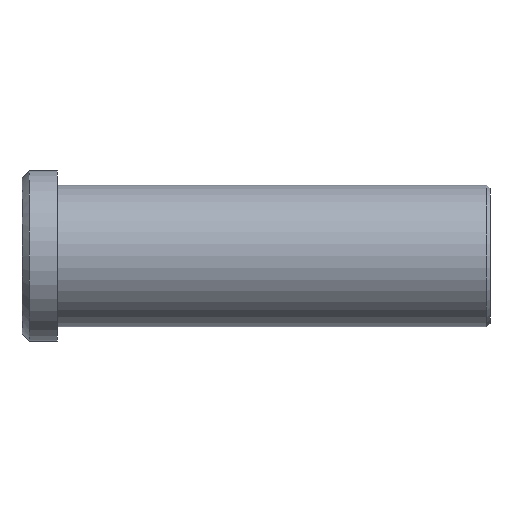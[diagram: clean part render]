
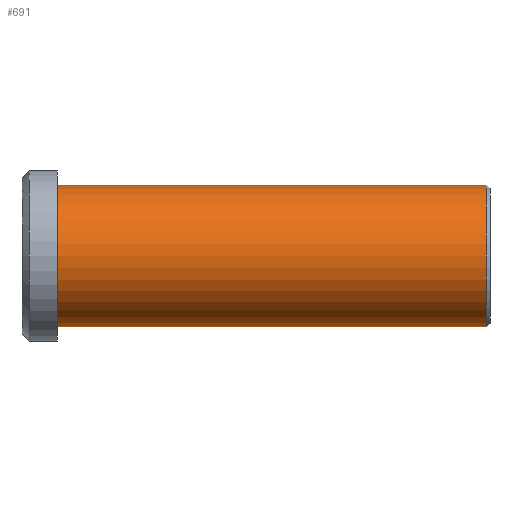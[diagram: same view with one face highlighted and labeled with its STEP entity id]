
A CAD part, front view. The second image highlights one B-rep face of the part: STEP entity #691.
In plain terms, the highlighted cylindrical face has radius 10 mm (diameter 20 mm), a partial arc.
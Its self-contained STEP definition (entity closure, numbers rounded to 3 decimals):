
#501=CARTESIAN_POINT('Vertex',(0.,0.,-10.)) ;
#506=CARTESIAN_POINT('Axis2P3D Location',(0.,0.,0.)) ;
#510=CARTESIAN_POINT('Vertex',(0.,-10.,0.)) ;
#513=CARTESIAN_POINT('Axis2P3D Location',(0.,0.,0.)) ;
#517=CARTESIAN_POINT('Vertex',(0.,0.,10.)) ;
#631=CARTESIAN_POINT('Line Origine',(61.,0.,10.)) ;
#635=CARTESIAN_POINT('Vertex',(60.5,0.,10.)) ;
#649=CARTESIAN_POINT('Vertex',(60.5,0.,-10.)) ;
#652=CARTESIAN_POINT('Line Origine',(61.,0.,-10.)) ;
#666=CARTESIAN_POINT('Axis2P3D Location',(61.,0.,0.)) ;
#671=CARTESIAN_POINT('Axis2P3D Location',(60.5,0.,0.)) ;
#675=CARTESIAN_POINT('Vertex',(60.5,-10.,0.)) ;
#678=CARTESIAN_POINT('Axis2P3D Location',(60.5,0.,0.)) ;
#507=DIRECTION('Axis2P3D Direction',(1.,0.,-0.)) ;
#514=DIRECTION('Axis2P3D Direction',(1.,0.,-0.)) ;
#632=DIRECTION('Vector Direction',(-1.,0.,0.)) ;
#653=DIRECTION('Vector Direction',(-1.,0.,0.)) ;
#667=DIRECTION('Axis2P3D Direction',(-1.,-0.,-0.)) ;
#668=DIRECTION('Axis2P3D XDirection',(0.,0.,-1.)) ;
#672=DIRECTION('Axis2P3D Direction',(-1.,-0.,-0.)) ;
#679=DIRECTION('Axis2P3D Direction',(-1.,-0.,-0.)) ;
#508=AXIS2_PLACEMENT_3D('Circle Axis2P3D',#506,#507,$) ;
#515=AXIS2_PLACEMENT_3D('Circle Axis2P3D',#513,#514,$) ;
#669=AXIS2_PLACEMENT_3D('Cylinder Axis2P3D',#666,#667,#668) ;
#673=AXIS2_PLACEMENT_3D('Circle Axis2P3D',#671,#672,$) ;
#680=AXIS2_PLACEMENT_3D('Circle Axis2P3D',#678,#679,$) ;
#684=ORIENTED_EDGE('',*,*,#656,.T.) ;
#685=ORIENTED_EDGE('',*,*,#677,.F.) ;
#686=ORIENTED_EDGE('',*,*,#682,.F.) ;
#687=ORIENTED_EDGE('',*,*,#637,.T.) ;
#688=ORIENTED_EDGE('',*,*,#519,.T.) ;
#689=ORIENTED_EDGE('',*,*,#512,.T.) ;
#633=VECTOR('Line Direction',#632,1.) ;
#654=VECTOR('Line Direction',#653,1.) ;
#691=ADVANCED_FACE('353-14X66',(#690),#670,.T.) ;
#509=CIRCLE('generated circle',#508,10.) ;
#516=CIRCLE('generated circle',#515,10.) ;
#674=CIRCLE('generated circle',#673,10.) ;
#681=CIRCLE('generated circle',#680,10.) ;
#670=CYLINDRICAL_SURFACE('generated cylinder',#669,10.) ;
#512=EDGE_CURVE('',#511,#502,#509,.T.) ;
#519=EDGE_CURVE('',#518,#511,#516,.T.) ;
#637=EDGE_CURVE('',#636,#518,#634,.T.) ;
#656=EDGE_CURVE('',#502,#650,#655,.F.) ;
#677=EDGE_CURVE('',#676,#650,#674,.F.) ;
#682=EDGE_CURVE('',#636,#676,#681,.F.) ;
#683=EDGE_LOOP('',(#684,#685,#686,#687,#688,#689)) ;
#690=FACE_OUTER_BOUND('',#683,.T.) ;
#634=LINE('Line',#631,#633) ;
#655=LINE('Line',#652,#654) ;
#502=VERTEX_POINT('',#501) ;
#511=VERTEX_POINT('',#510) ;
#518=VERTEX_POINT('',#517) ;
#636=VERTEX_POINT('',#635) ;
#650=VERTEX_POINT('',#649) ;
#676=VERTEX_POINT('',#675) ;
